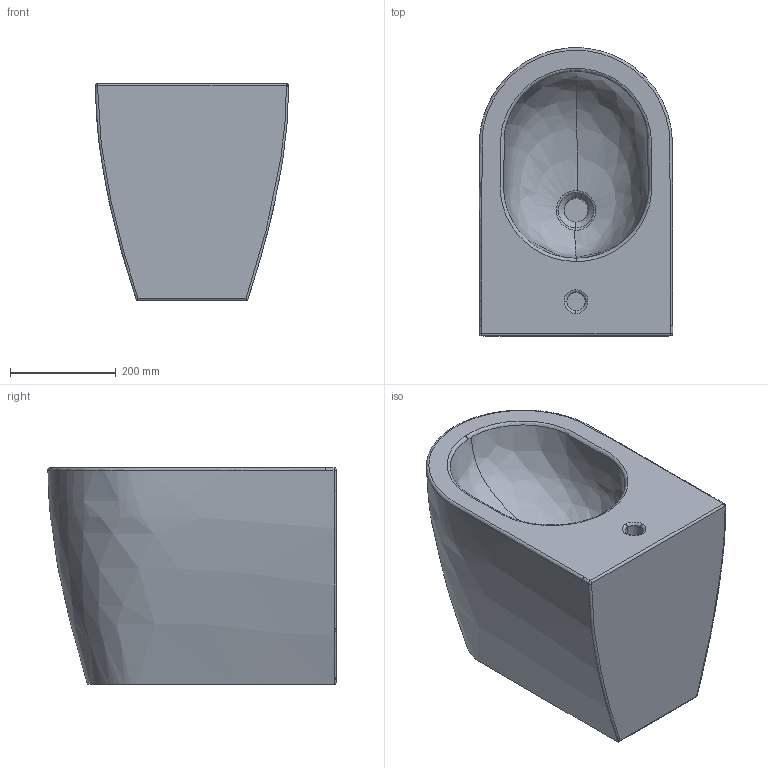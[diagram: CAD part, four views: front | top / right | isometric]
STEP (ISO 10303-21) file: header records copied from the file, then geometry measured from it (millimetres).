
FILE_DESCRIPTION(/* description */ (''),/* implementation_level */ '2;1');
FILE_NAME(/* name */ 'MOONBI~1',/* time_stamp */ '2017-11-27T11:27:56+01:00',/* author */ (''),/* organization */ (''),/* preprocessor_version */ 'ST-DEVELOPER v15',/* originating_system */ '',/* authorisation */ '');
FILE_SCHEMA (('AUTOMOTIVE_DESIGN'));
Length unit declared in the file: millimetre
Products named in the file (1): Document
Bounding box: 365.46 x 545.01 x 410 mm (x, y, z)
Volume: 52451242.7 mm3; surface area: 1007198.8 mm2
Topology: 1 solids, 1 shells, 40 faces, 95 edges, 60 vertices
Faces by surface type: bspline 34, plane 6
Entity records: 2533 total; most frequent: CARTESIAN_POINT 1983, ORIENTED_EDGE 188, EDGE_CURVE 94, VERTEX_POINT 58, EDGE_LOOP 42, ADVANCED_FACE 40, FACE_OUTER_BOUND 40, B_SPLINE_CURVE_WITH_KNOTS 30
